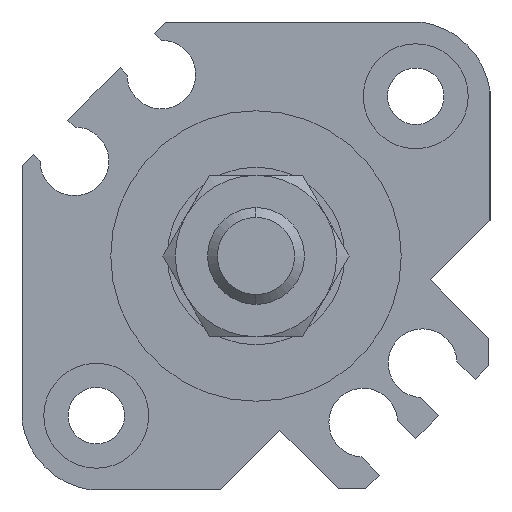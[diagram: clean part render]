
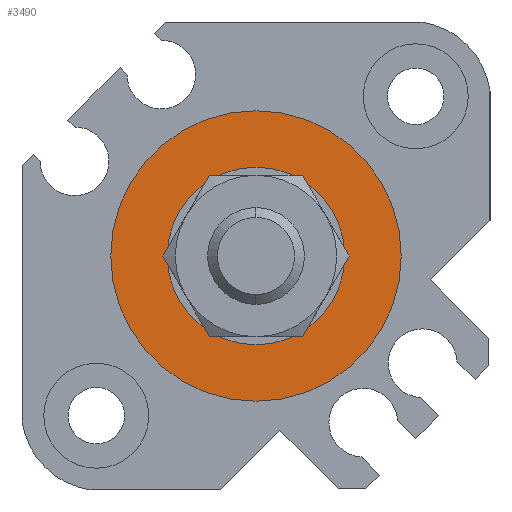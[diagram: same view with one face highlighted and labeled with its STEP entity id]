
A CAD part, left-side view. The second image highlights one B-rep face of the part: STEP entity #3490.
In plain terms, the highlighted planar face has unit normal (-1, 0, 0).
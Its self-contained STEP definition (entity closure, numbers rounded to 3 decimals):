
#83 = VERTEX_POINT ( 'NONE', #2933 ) ;
#228 = FACE_BOUND ( 'NONE', #254, .T. ) ;
#254 = EDGE_LOOP ( 'NONE', ( #2099, #2710 ) ) ;
#707 = VERTEX_POINT ( 'NONE', #956 ) ;
#845 = ORIENTED_EDGE ( 'NONE', *, *, #4671, .F. ) ;
#956 = CARTESIAN_POINT ( 'NONE',  ( 1.1, 0., -5.5 ) ) ;
#981 = CARTESIAN_POINT ( 'NONE',  ( 1.1, 0., 0. ) ) ;
#991 = DIRECTION ( 'NONE',  ( 1., 0., 0. ) ) ;
#1003 = PLANE ( 'NONE',  #3143 ) ;
#1023 = DIRECTION ( 'NONE',  ( 1., 0., 0. ) ) ;
#1030 = CARTESIAN_POINT ( 'NONE',  ( 1.1, 0., 0. ) ) ;
#1061 = CARTESIAN_POINT ( 'NONE',  ( 1.1, 0., 0. ) ) ;
#1352 = CIRCLE ( 'NONE', #2645, 5.5 ) ;
#1461 = AXIS2_PLACEMENT_3D ( 'NONE', #4581, #991, #2167 ) ;
#1547 = EDGE_CURVE ( 'NONE', #83, #1681, #1876, .T. ) ;
#1582 = ORIENTED_EDGE ( 'NONE', *, *, #1547, .F. ) ;
#1681 = VERTEX_POINT ( 'NONE', #3966 ) ;
#1827 = DIRECTION ( 'NONE',  ( 1., 0., 0. ) ) ;
#1876 = CIRCLE ( 'NONE', #1461, 9. ) ;
#1958 = DIRECTION ( 'NONE',  ( 1., 0., 0. ) ) ;
#2099 = ORIENTED_EDGE ( 'NONE', *, *, #2166, .T. ) ;
#2166 = EDGE_CURVE ( 'NONE', #2893, #707, #2587, .T. ) ;
#2167 = DIRECTION ( 'NONE',  ( 0., 0., -1. ) ) ;
#2207 = DIRECTION ( 'NONE',  ( 0., 0., -1. ) ) ;
#2587 = CIRCLE ( 'NONE', #3516, 5.5 ) ;
#2637 = DIRECTION ( 'NONE',  ( 0., 1., 0. ) ) ;
#2645 = AXIS2_PLACEMENT_3D ( 'NONE', #1061, #1958, #3540 ) ;
#2665 = AXIS2_PLACEMENT_3D ( 'NONE', #981, #1827, #2207 ) ;
#2710 = ORIENTED_EDGE ( 'NONE', *, *, #3055, .T. ) ;
#2893 = VERTEX_POINT ( 'NONE', #2946 ) ;
#2933 = CARTESIAN_POINT ( 'NONE',  ( 1.1, 0., -9. ) ) ;
#2946 = CARTESIAN_POINT ( 'NONE',  ( 1.1, 0., 5.5 ) ) ;
#3055 = EDGE_CURVE ( 'NONE', #707, #2893, #1352, .T. ) ;
#3056 = CARTESIAN_POINT ( 'NONE',  ( 1.1, 0., 0. ) ) ;
#3143 = AXIS2_PLACEMENT_3D ( 'NONE', #1030, #3407, #2637 ) ;
#3407 = DIRECTION ( 'NONE',  ( 1., 0., 0. ) ) ;
#3490 = ADVANCED_FACE ( 'NONE', ( #5012, #228 ), #1003, .F. ) ;
#3516 = AXIS2_PLACEMENT_3D ( 'NONE', #3056, #1023, #4235 ) ;
#3540 = DIRECTION ( 'NONE',  ( 0., 0., -1. ) ) ;
#3966 = CARTESIAN_POINT ( 'NONE',  ( 1.1, 0., 9. ) ) ;
#4235 = DIRECTION ( 'NONE',  ( 0., 0., -1. ) ) ;
#4581 = CARTESIAN_POINT ( 'NONE',  ( 1.1, 0., 0. ) ) ;
#4671 = EDGE_CURVE ( 'NONE', #1681, #83, #4772, .T. ) ;
#4772 = CIRCLE ( 'NONE', #2665, 9. ) ;
#5012 = FACE_OUTER_BOUND ( 'NONE', #5046, .T. ) ;
#5046 = EDGE_LOOP ( 'NONE', ( #845, #1582 ) ) ;
